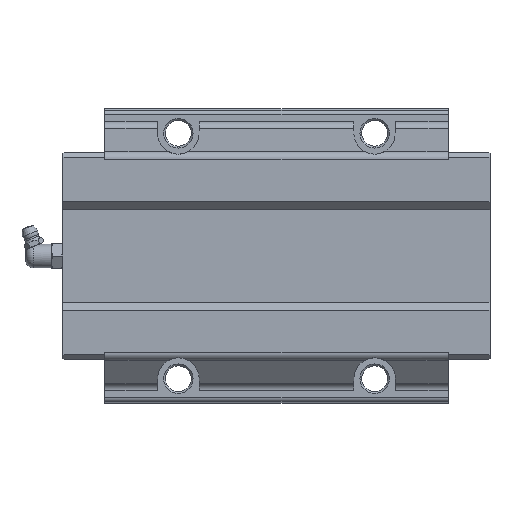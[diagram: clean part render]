
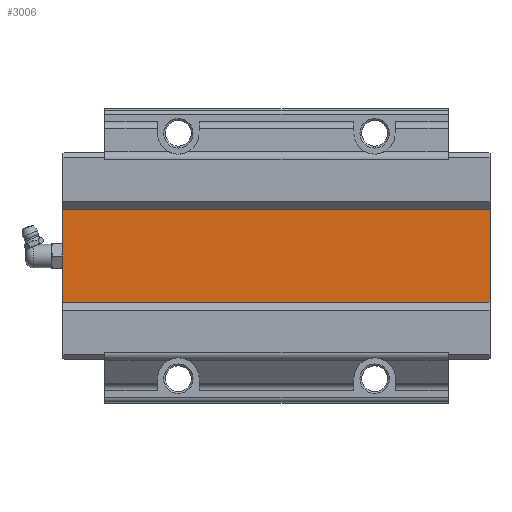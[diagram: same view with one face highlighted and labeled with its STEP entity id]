
A CAD part, front view. The second image highlights one B-rep face of the part: STEP entity #3006.
In plain terms, the highlighted planar face has unit normal (0, -1, 0).
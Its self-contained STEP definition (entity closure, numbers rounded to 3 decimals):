
#67=LINE('',#4514,#323);
#111=LINE('',#4638,#367);
#288=LINE('',#5227,#544);
#289=LINE('',#5229,#545);
#323=VECTOR('',#3504,1000.);
#367=VECTOR('',#3600,1000.);
#544=VECTOR('',#4129,1000.);
#545=VECTOR('',#4132,1000.);
#636=PLANE('',#3318);
#1589=ORIENTED_EDGE('',*,*,#1797,.F.);
#1590=ORIENTED_EDGE('',*,*,#2056,.F.);
#1591=ORIENTED_EDGE('',*,*,#1734,.T.);
#1592=ORIENTED_EDGE('',*,*,#2057,.T.);
#1734=EDGE_CURVE('',#2136,#2135,#67,.T.);
#1797=EDGE_CURVE('',#2189,#2190,#111,.T.);
#2056=EDGE_CURVE('',#2136,#2189,#288,.T.);
#2057=EDGE_CURVE('',#2135,#2190,#289,.T.);
#2135=VERTEX_POINT('',#4513);
#2136=VERTEX_POINT('',#4515);
#2189=VERTEX_POINT('',#4637);
#2190=VERTEX_POINT('',#4639);
#2586=EDGE_LOOP('',(#1589,#1590,#1591,#1592));
#2805=FACE_BOUND('',#2586,.T.);
#3006=ADVANCED_FACE('',(#2805),#636,.T.);
#3318=AXIS2_PLACEMENT_3D('',#5228,#4130,#4131);
#3504=DIRECTION('',(0.,0.,1.));
#3600=DIRECTION('',(0.,0.,1.));
#4129=DIRECTION('',(-1.,0.,0.));
#4130=DIRECTION('',(0.,-1.,0.));
#4131=DIRECTION('',(0.,0.,-1.));
#4132=DIRECTION('',(-1.,0.,0.));
#4513=CARTESIAN_POINT('',(87.,23.1,19.191));
#4514=CARTESIAN_POINT('',(87.,23.1,-19.191));
#4515=CARTESIAN_POINT('',(87.,23.1,-19.191));
#4637=CARTESIAN_POINT('',(-87.,23.1,-19.191));
#4638=CARTESIAN_POINT('',(-87.,23.1,-19.191));
#4639=CARTESIAN_POINT('',(-87.,23.1,19.191));
#5227=CARTESIAN_POINT('',(87.,23.1,-19.191));
#5228=CARTESIAN_POINT('',(87.,23.1,-19.191));
#5229=CARTESIAN_POINT('',(87.,23.1,19.191));
